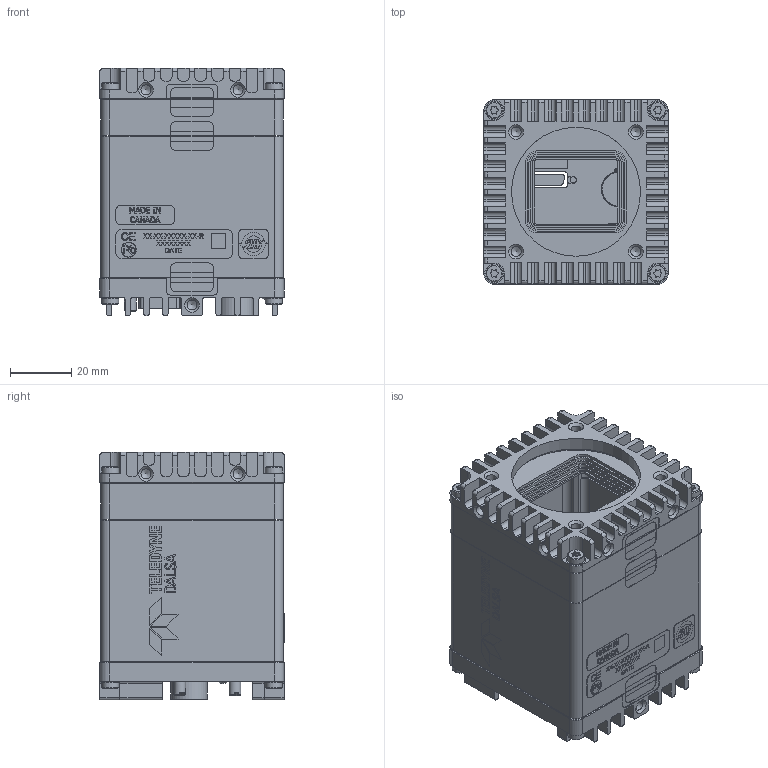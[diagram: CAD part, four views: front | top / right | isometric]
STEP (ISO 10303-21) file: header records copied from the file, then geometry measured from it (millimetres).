
FILE_DESCRIPTION((''),'2;1');
FILE_NAME('C:\_01_DME_Vault\_01_DME_Vault_Projects\IRONMAN\03-129-20027-00 IRONMAN USER 3D MODEL - CAMERA LINK\03-129-20027-01 IRONMAN CAMERA LINK USER 3D MODEL.stp','2011-09-22T15:10:24',('deith'),(''),'Autodesk Inventor 2011','Autodesk Inventor 2011','');
FILE_SCHEMA(('AUTOMOTIVE_DESIGN { 1 0 10303 214 1 1 1 1 }'));
Length unit declared in the file: millimetre
Products named in the file (1): 03-129-20027-01 IRONMAN MODEL FOR STEP FILE - CAMERA LINK
Bounding box: 60 x 60 x 80.6 mm (x, y, z)
Volume: 52081.1 mm3; surface area: 57894.5 mm2
Topology: 6 solids, 6 shells, 4623 faces, 12681 edges, 8402 vertices
Faces by surface type: plane 3082, bspline 754, cylinder 690, cone 92, torus 4, sphere 1
Full cylindrical faces by diameter (mm): 0.5 x2, 0.6 x10, 1.567 x3, 1.575 x4, 2 x4, 2.459 x8, 2.845 x1, 2.921 x1, 3 x8, 3.242 x14, 3.5 x8, 3.81 x4, 5 x1, 5.5 x8, 6.2 x4, 11 x2, 11.9 x1, 14 x1, 15 x1, 42 x1, 43.6 x1
Entity records: 156485 total; most frequent: CARTESIAN_POINT 38860, ORIENTED_EDGE 24922, DIRECTION 20285, EDGE_CURVE 12461, VECTOR 9427, LINE 9427, VERTEX_POINT 8337, AXIS2_PLACEMENT_3D 5429
